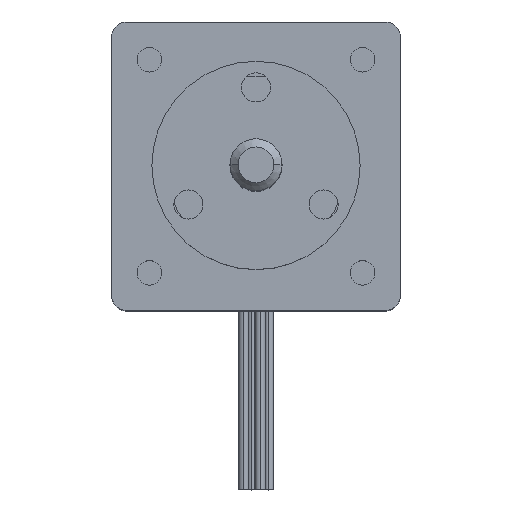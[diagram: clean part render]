
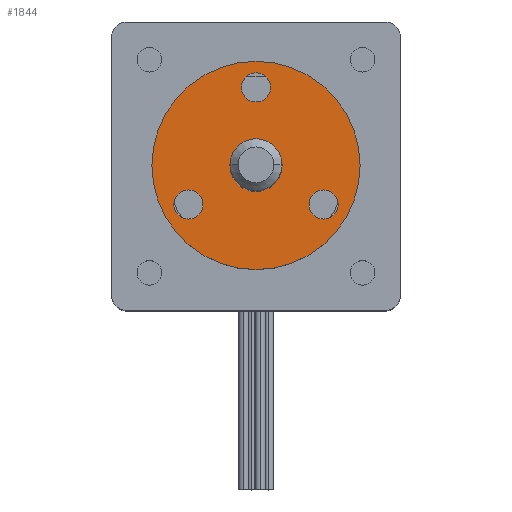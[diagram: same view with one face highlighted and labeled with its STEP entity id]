
A CAD part, top view. The second image highlights one B-rep face of the part: STEP entity #1844.
In plain terms, the highlighted planar face has unit normal (0, 0, 1).
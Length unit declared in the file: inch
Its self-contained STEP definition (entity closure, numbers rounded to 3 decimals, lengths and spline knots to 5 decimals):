
#88 = AXIS2_PLACEMENT_3D ( 'NONE', #159, #855, #416 ) ;
#159 = CARTESIAN_POINT ( 'NONE',  ( -0.32476, 0.1875, 0. ) ) ;
#172 = CARTESIAN_POINT ( 'NONE',  ( 0.5, 0., 0. ) ) ;
#183 = AXIS2_PLACEMENT_3D ( 'NONE', #911, #3029, #1086 ) ;
#204 = CARTESIAN_POINT ( 'NONE',  ( 0., -0.375, 0. ) ) ;
#235 = CARTESIAN_POINT ( 'NONE',  ( -0.32476, 0.1875, 0. ) ) ;
#248 = DIRECTION ( 'NONE',  ( 1., 0., 0. ) ) ;
#265 = VERTEX_POINT ( 'NONE', #426 ) ;
#306 = EDGE_CURVE ( 'NONE', #783, #2662, #1410, .T. ) ;
#317 = ORIENTED_EDGE ( 'NONE', *, *, #3019, .F. ) ;
#340 = DIRECTION ( 'NONE',  ( 1., 0., 0. ) ) ;
#354 = CARTESIAN_POINT ( 'NONE',  ( 0., -0.375, 0. ) ) ;
#416 = DIRECTION ( 'NONE',  ( 1., 0., 0. ) ) ;
#426 = CARTESIAN_POINT ( 'NONE',  ( -0.125, 0., 0. ) ) ;
#460 = ORIENTED_EDGE ( 'NONE', *, *, #1954, .F. ) ;
#474 = DIRECTION ( 'NONE',  ( 1., 0., 0. ) ) ;
#478 = PLANE ( 'NONE',  #2123 ) ;
#511 = EDGE_LOOP ( 'NONE', ( #701, #1736 ) ) ;
#540 = DIRECTION ( 'NONE',  ( -1., 0., 0. ) ) ;
#546 = CIRCLE ( 'NONE', #752, 0.07008 ) ;
#631 = VERTEX_POINT ( 'NONE', #1103 ) ;
#701 = ORIENTED_EDGE ( 'NONE', *, *, #2772, .T. ) ;
#717 = FACE_OUTER_BOUND ( 'NONE', #511, .T. ) ;
#725 = DIRECTION ( 'NONE',  ( 0., 0., 1. ) ) ;
#745 = CARTESIAN_POINT ( 'NONE',  ( 0., 0., 0. ) ) ;
#752 = AXIS2_PLACEMENT_3D ( 'NONE', #204, #2562, #2332 ) ;
#783 = VERTEX_POINT ( 'NONE', #1940 ) ;
#819 = ORIENTED_EDGE ( 'NONE', *, *, #1649, .F. ) ;
#833 = ORIENTED_EDGE ( 'NONE', *, *, #1239, .F. ) ;
#837 = DIRECTION ( 'NONE',  ( 1., 0., 0. ) ) ;
#855 = DIRECTION ( 'NONE',  ( 0., 0., 1. ) ) ;
#879 = EDGE_LOOP ( 'NONE', ( #1472, #1152 ) ) ;
#911 = CARTESIAN_POINT ( 'NONE',  ( 0., 0., 0. ) ) ;
#952 = FACE_BOUND ( 'NONE', #1668, .T. ) ;
#988 = AXIS2_PLACEMENT_3D ( 'NONE', #1578, #2085, #2057 ) ;
#1086 = DIRECTION ( 'NONE',  ( 1., 0., 0. ) ) ;
#1089 = CARTESIAN_POINT ( 'NONE',  ( 0.07008, -0.375, 0. ) ) ;
#1097 = CARTESIAN_POINT ( 'NONE',  ( 0.39484, 0.1875, 0. ) ) ;
#1103 = CARTESIAN_POINT ( 'NONE',  ( 0.125, 0., 0. ) ) ;
#1135 = VERTEX_POINT ( 'NONE', #1683 ) ;
#1152 = ORIENTED_EDGE ( 'NONE', *, *, #1606, .F. ) ;
#1186 = CIRCLE ( 'NONE', #2369, 0.07008 ) ;
#1192 = ORIENTED_EDGE ( 'NONE', *, *, #1734, .F. ) ;
#1235 = CIRCLE ( 'NONE', #1614, 0.07008 ) ;
#1239 = EDGE_CURVE ( 'NONE', #631, #265, #2823, .T. ) ;
#1249 = CIRCLE ( 'NONE', #1390, 0.07008 ) ;
#1252 = ORIENTED_EDGE ( 'NONE', *, *, #2647, .F. ) ;
#1296 = CARTESIAN_POINT ( 'NONE',  ( 0.32476, 0.1875, 0. ) ) ;
#1370 = DIRECTION ( 'NONE',  ( 1., 0., 0. ) ) ;
#1385 = DIRECTION ( 'NONE',  ( 0., 0., 1. ) ) ;
#1390 = AXIS2_PLACEMENT_3D ( 'NONE', #235, #725, #248 ) ;
#1393 = EDGE_LOOP ( 'NONE', ( #833, #1192 ) ) ;
#1410 = CIRCLE ( 'NONE', #1859, 0.5 ) ;
#1421 = CARTESIAN_POINT ( 'NONE',  ( 0., 0., 0. ) ) ;
#1425 = CIRCLE ( 'NONE', #88, 0.07008 ) ;
#1470 = CIRCLE ( 'NONE', #1673, 0.07008 ) ;
#1472 = ORIENTED_EDGE ( 'NONE', *, *, #1583, .F. ) ;
#1505 = CARTESIAN_POINT ( 'NONE',  ( -0.25468, 0.1875, 0. ) ) ;
#1578 = CARTESIAN_POINT ( 'NONE',  ( 0., 0., 0. ) ) ;
#1580 = VERTEX_POINT ( 'NONE', #1505 ) ;
#1583 = EDGE_CURVE ( 'NONE', #2882, #1135, #1235, .T. ) ;
#1606 = EDGE_CURVE ( 'NONE', #1135, #2882, #1186, .T. ) ;
#1614 = AXIS2_PLACEMENT_3D ( 'NONE', #1296, #2198, #2486 ) ;
#1649 = EDGE_CURVE ( 'NONE', #2789, #1580, #1425, .T. ) ;
#1668 = EDGE_LOOP ( 'NONE', ( #1252, #460 ) ) ;
#1673 = AXIS2_PLACEMENT_3D ( 'NONE', #354, #2010, #837 ) ;
#1683 = CARTESIAN_POINT ( 'NONE',  ( 0.25468, 0.1875, 0. ) ) ;
#1719 = CARTESIAN_POINT ( 'NONE',  ( 0.32476, 0.1875, 0. ) ) ;
#1734 = EDGE_CURVE ( 'NONE', #265, #631, #2879, .T. ) ;
#1736 = ORIENTED_EDGE ( 'NONE', *, *, #306, .T. ) ;
#1737 = CIRCLE ( 'NONE', #2940, 0.5 ) ;
#1844 = ADVANCED_FACE ( 'NONE', ( #2347, #2120, #952, #2850, #717 ), #478, .F. ) ;
#1859 = AXIS2_PLACEMENT_3D ( 'NONE', #2593, #1385, #1370 ) ;
#1940 = CARTESIAN_POINT ( 'NONE',  ( -0.5, 0., 0. ) ) ;
#1951 = VERTEX_POINT ( 'NONE', #2959 ) ;
#1954 = EDGE_CURVE ( 'NONE', #1951, #2467, #1470, .T. ) ;
#2010 = DIRECTION ( 'NONE',  ( 0., 0., 1. ) ) ;
#2057 = DIRECTION ( 'NONE',  ( 1., 0., 0. ) ) ;
#2085 = DIRECTION ( 'NONE',  ( 0., 0., 1. ) ) ;
#2120 = FACE_BOUND ( 'NONE', #879, .T. ) ;
#2123 = AXIS2_PLACEMENT_3D ( 'NONE', #1421, #2370, #540 ) ;
#2198 = DIRECTION ( 'NONE',  ( 0., 0., 1. ) ) ;
#2332 = DIRECTION ( 'NONE',  ( 1., 0., 0. ) ) ;
#2347 = FACE_BOUND ( 'NONE', #2999, .T. ) ;
#2369 = AXIS2_PLACEMENT_3D ( 'NONE', #1719, #2469, #340 ) ;
#2370 = DIRECTION ( 'NONE',  ( 0., 0., -1. ) ) ;
#2467 = VERTEX_POINT ( 'NONE', #1089 ) ;
#2469 = DIRECTION ( 'NONE',  ( 0., 0., 1. ) ) ;
#2486 = DIRECTION ( 'NONE',  ( 1., 0., 0. ) ) ;
#2562 = DIRECTION ( 'NONE',  ( 0., 0., 1. ) ) ;
#2593 = CARTESIAN_POINT ( 'NONE',  ( 0., 0., 0. ) ) ;
#2647 = EDGE_CURVE ( 'NONE', #2467, #1951, #546, .T. ) ;
#2662 = VERTEX_POINT ( 'NONE', #172 ) ;
#2674 = CARTESIAN_POINT ( 'NONE',  ( -0.39484, 0.1875, 0. ) ) ;
#2772 = EDGE_CURVE ( 'NONE', #2662, #783, #1737, .T. ) ;
#2789 = VERTEX_POINT ( 'NONE', #2674 ) ;
#2823 = CIRCLE ( 'NONE', #988, 0.125 ) ;
#2847 = DIRECTION ( 'NONE',  ( 0., 0., 1. ) ) ;
#2850 = FACE_BOUND ( 'NONE', #1393, .T. ) ;
#2879 = CIRCLE ( 'NONE', #183, 0.125 ) ;
#2882 = VERTEX_POINT ( 'NONE', #1097 ) ;
#2940 = AXIS2_PLACEMENT_3D ( 'NONE', #745, #2847, #474 ) ;
#2959 = CARTESIAN_POINT ( 'NONE',  ( -0.07008, -0.375, 0. ) ) ;
#2999 = EDGE_LOOP ( 'NONE', ( #317, #819 ) ) ;
#3019 = EDGE_CURVE ( 'NONE', #1580, #2789, #1249, .T. ) ;
#3029 = DIRECTION ( 'NONE',  ( 0., 0., 1. ) ) ;
